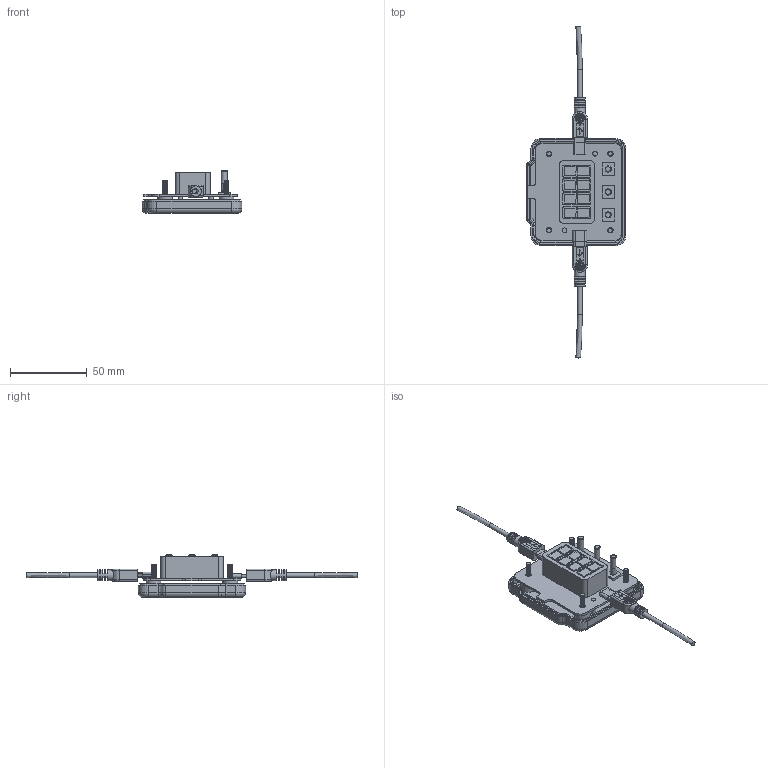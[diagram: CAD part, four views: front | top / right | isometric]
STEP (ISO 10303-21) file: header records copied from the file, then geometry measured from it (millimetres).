
FILE_DESCRIPTION(/* description */ (''),/* implementation_level */ '2;1');
FILE_NAME(/* name */ '3.stp',/* time_stamp */ '2017-05-17T23:11:03+08:00',/* author */ (''),/* organization */ (''),/* preprocessor_version */ 'ST-DEVELOPER v15',/* originating_system */ 'SIEMENS PLM Software NX 8.5',/* authorisation */ '');
FILE_SCHEMA (('AUTOMOTIVE_DESIGN { 1 0 10303 214 3 1 1 1 }'));
Products named in the file (1): Admi09DC788534my
Bounding box: 65 x 217 x 28.01 mm (x, y, z)
Volume: 36464.2 mm3; surface area: 30324.4 mm2
Topology: 13 solids, 13 shells, 873 faces, 2188 edges, 1438 vertices
Faces by surface type: plane 597, cylinder 215, torus 25, bspline 24, cone 8, sphere 4
Full cylindrical faces by diameter (mm): 3 x16, 3.5 x4, 4 x3, 6.6 x4, 7 x2
Entity records: 61373 total; most frequent: CARTESIAN_POINT 38808, DIRECTION 4260, ORIENTED_EDGE 4200, EDGE_CURVE 2100, LINE 1470, VECTOR 1470, VERTEX_POINT 1406, AXIS2_PLACEMENT_3D 1395
